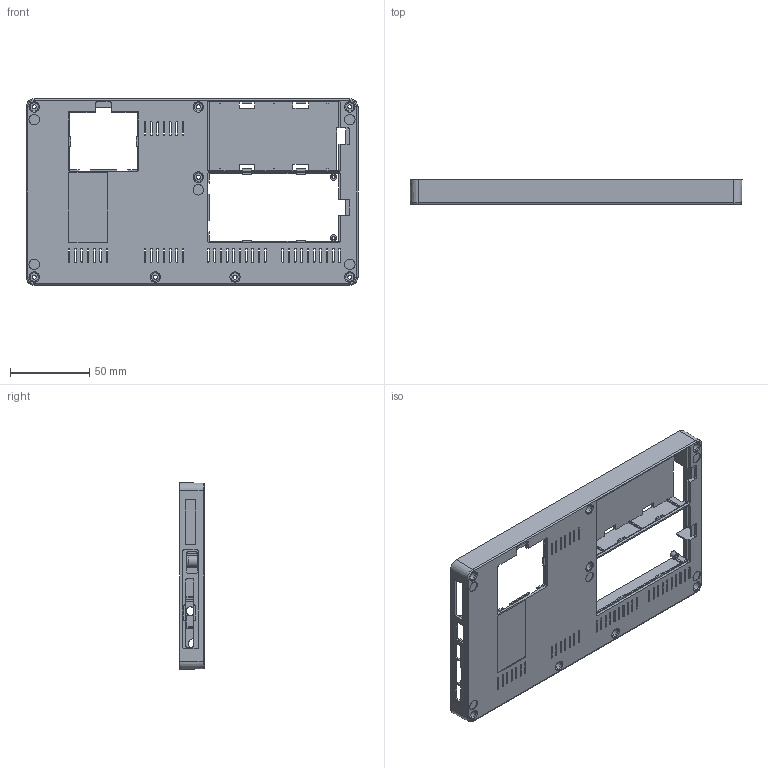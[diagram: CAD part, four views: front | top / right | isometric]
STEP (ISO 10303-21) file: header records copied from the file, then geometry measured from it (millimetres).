
FILE_DESCRIPTION (( 'STEP AP203' ), '1' );
FILE_NAME ('D-下底壳-外表已拔模(内部未确定).STEP', '2023-07-06T14:55:52', ( 'shan123' ), ( 'Razer' ), 'SwSTEP 2.0', 'SolidWorks 2018', '' );
FILE_SCHEMA (( 'CONFIG_CONTROL_DESIGN' ));
Length unit declared in the file: millimetre
Products named in the file (1): D-下底壳-外表已拔模(内部未确定)
Bounding box: 209.94 x 15.6 x 117.94 mm (x, y, z)
Volume: 48337.6 mm3; surface area: 67525.6 mm2
Topology: 1 solids, 1 shells, 810 faces, 2379 edges, 1568 vertices
Faces by surface type: plane 533, cylinder 235, cone 38, torus 4
Entity records: 27208 total; most frequent: CARTESIAN_POINT 4782, ORIENTED_EDGE 4758, DIRECTION 4517, EDGE_CURVE 2379, VECTOR 1847, LINE 1847, VERTEX_POINT 1568, AXIS2_PLACEMENT_3D 1335
